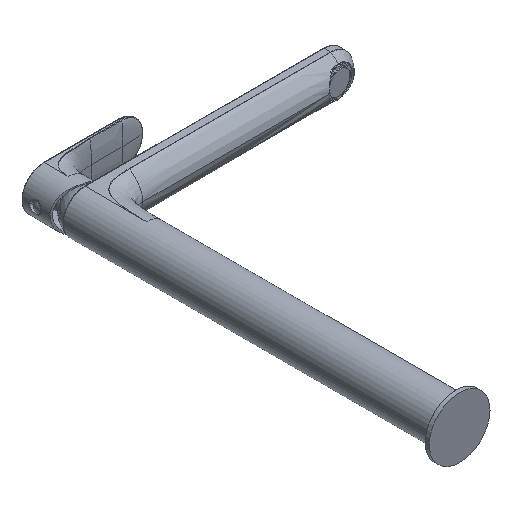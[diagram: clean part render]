
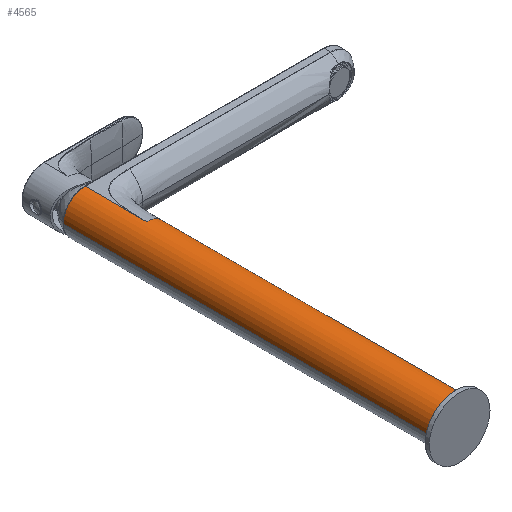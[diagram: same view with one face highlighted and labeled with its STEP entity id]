
A CAD part, isometric view. The second image highlights one B-rep face of the part: STEP entity #4565.
In plain terms, the highlighted cylindrical face has radius 17.5 mm (diameter 35 mm), a partial arc.
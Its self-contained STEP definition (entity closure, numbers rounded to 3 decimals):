
#1=CARTESIAN_POINT('',(0.,2.,0.));
#2=DIRECTION('',(0.,1.,0.));
#3=DIRECTION('',(-1.,0.,0.));
#4=AXIS2_PLACEMENT_3D('',#1,#2,#3);
#6=CARTESIAN_POINT('',(0.,299.5,0.));
#7=DIRECTION('',(0.,-1.,0.));
#8=DIRECTION('',(0.,0.,1.));
#9=AXIS2_PLACEMENT_3D('',#6,#7,#8);
#82=DIRECTION('',(0.,-1.,0.));
#83=VECTOR('',#82,248.);
#84=CARTESIAN_POINT('',(17.5,250.,0.));
#85=LINE('',#84,#83);
#91=DIRECTION('',(0.,-1.,0.));
#92=VECTOR('',#91,297.5);
#93=CARTESIAN_POINT('',(-17.5,299.5,0.));
#94=LINE('',#93,#92);
#140=CARTESIAN_POINT('',(17.5,250.,0.));
#267=CARTESIAN_POINT('',(0.,250.,0.));
#268=DIRECTION('',(0.,-1.,0.));
#269=DIRECTION('',(1.,0.,0.));
#270=AXIS2_PLACEMENT_3D('',#267,#268,#269);
#272=DIRECTION('',(0.,1.,0.));
#273=VECTOR('',#272,0.531);
#274=CARTESIAN_POINT('',(0.,250.,17.5));
#275=LINE('',#274,#273);
#303=CARTESIAN_POINT('',(0.,250.531,17.5));
#305=DIRECTION('',(0.,1.,0.));
#306=VECTOR('',#305,48.969);
#307=CARTESIAN_POINT('',(0.,250.531,17.5));
#308=LINE('',#307,#306);
#3904=VERTEX_POINT('',#140);
#3905=CARTESIAN_POINT('',(0.,299.5,17.5));
#3906=CARTESIAN_POINT('',(-17.5,299.5,0.));
#3907=VERTEX_POINT('',#3905);
#3908=VERTEX_POINT('',#3906);
#3931=CARTESIAN_POINT('',(0.,250.,17.5));
#3932=VERTEX_POINT('',#3931);
#3936=VERTEX_POINT('',#303);
#4492=CARTESIAN_POINT('',(-17.5,2.,0.));
#4493=CARTESIAN_POINT('',(17.5,2.,0.));
#4494=VERTEX_POINT('',#4492);
#4495=VERTEX_POINT('',#4493);
#4544=CARTESIAN_POINT('',(0.,-12.5,0.));
#4545=DIRECTION('',(0.,1.,0.));
#4546=DIRECTION('',(1.,0.,0.));
#4547=AXIS2_PLACEMENT_3D('',#4544,#4545,#4546);
#4548=CYLINDRICAL_SURFACE('',#4547,17.5);
#4550=ORIENTED_EDGE('',*,*,#4549,.F.);
#4552=ORIENTED_EDGE('',*,*,#4551,.F.);
#4554=ORIENTED_EDGE('',*,*,#4553,.F.);
#4556=ORIENTED_EDGE('',*,*,#4555,.F.);
#4558=ORIENTED_EDGE('',*,*,#4557,.F.);
#4560=ORIENTED_EDGE('',*,*,#4559,.F.);
#4562=ORIENTED_EDGE('',*,*,#4561,.T.);
#4563=EDGE_LOOP('',(#4550,#4552,#4554,#4556,#4558,#4560,#4562));
#4564=FACE_OUTER_BOUND('',#4563,.F.);
#4565=ADVANCED_FACE('',(#4564),#4548,.T.);
#5=CIRCLE('',#4,17.5);
#10=CIRCLE('',#9,17.5);
#271=CIRCLE('',#270,17.5);
#4549=EDGE_CURVE('',#4494,#4495,#5,.T.);
#4551=EDGE_CURVE('',#3908,#4494,#94,.T.);
#4553=EDGE_CURVE('',#3907,#3908,#10,.T.);
#4555=EDGE_CURVE('',#3936,#3907,#308,.T.);
#4557=EDGE_CURVE('',#3932,#3936,#275,.T.);
#4559=EDGE_CURVE('',#3904,#3932,#271,.T.);
#4561=EDGE_CURVE('',#3904,#4495,#85,.T.);
